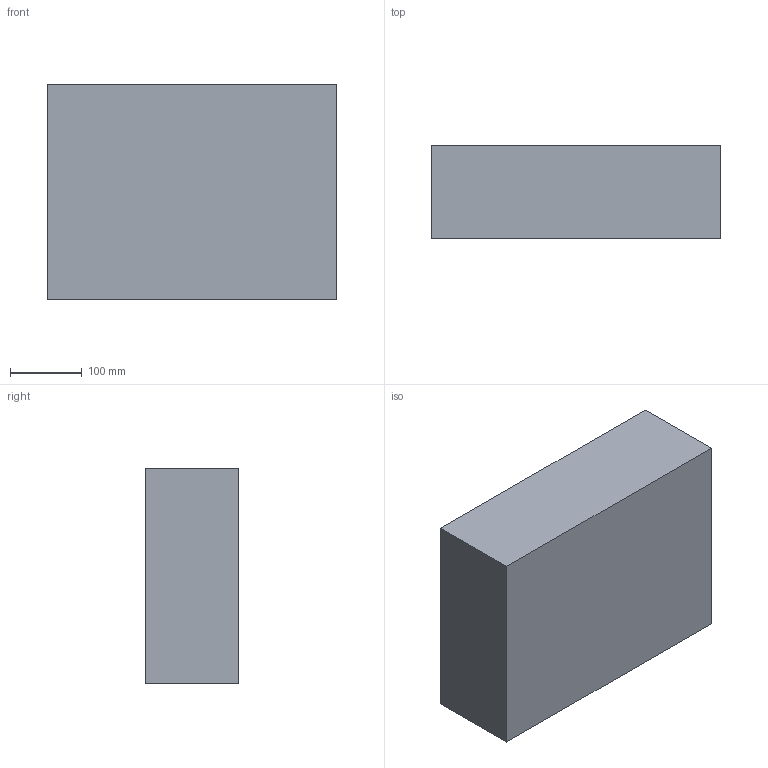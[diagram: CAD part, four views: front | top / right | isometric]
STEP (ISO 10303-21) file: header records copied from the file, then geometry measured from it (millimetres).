
FILE_DESCRIPTION (( 'STEP AP214' ), '1' );
FILE_NAME ('boden type 30.STEP', '2018-02-05T09:41:18', ( '' ), ( '' ), 'SwSTEP 2.0', 'SolidWorks 2017', '' );
FILE_SCHEMA (( 'AUTOMOTIVE_DESIGN' ));
Length unit declared in the file: millimetre
Products named in the file (1): boden type 30
Bounding box: 402.75 x 130 x 298.94 mm (x, y, z)
Volume: 7189473.1 mm3; surface area: 541465.5 mm2
Topology: 1 solids, 5 shells, 110 faces, 286 edges, 182 vertices
Faces by surface type: plane 61, cylinder 20, cone 18, sphere 8, torus 2, bspline 1
Entity records: 3892 total; most frequent: CARTESIAN_POINT 1353, ORIENTED_EDGE 560, DIRECTION 469, EDGE_CURVE 280, VERTEX_POINT 182, VECTOR 161, LINE 161, AXIS2_PLACEMENT_3D 154
